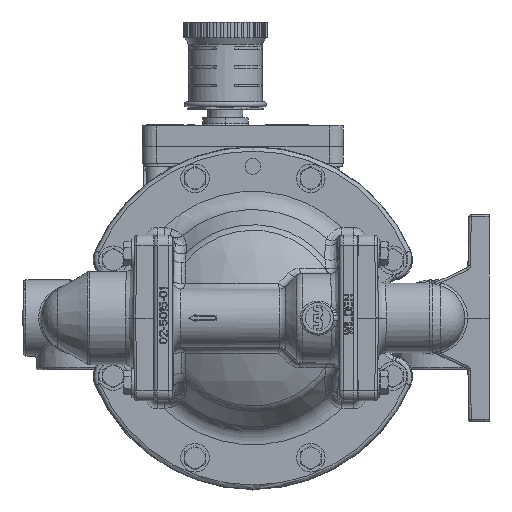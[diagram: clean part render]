
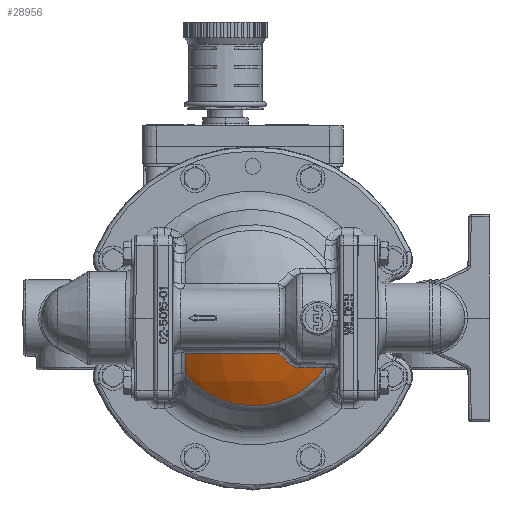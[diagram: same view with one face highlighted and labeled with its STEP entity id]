
A CAD part, left-side view. The second image highlights one B-rep face of the part: STEP entity #28956.
In plain terms, the highlighted spherical face has radius 87.376 mm.
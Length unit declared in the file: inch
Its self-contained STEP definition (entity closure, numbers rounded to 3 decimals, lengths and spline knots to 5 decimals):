
#1308 = CIRCLE ( 'NONE', #230731, 3.335 ) ;
#9130 = CARTESIAN_POINT ( 'NONE',  ( -1.198, 0., -0.84342 ) ) ;
#9702 = AXIS2_PLACEMENT_3D ( 'NONE', #234227, #44916, #62914 ) ;
#19353 = CARTESIAN_POINT ( 'NONE',  ( -4.2743, -0.99471, -1.175 ) ) ;
#20136 = AXIS2_PLACEMENT_3D ( 'NONE', #186400, #81340, #229217 ) ;
#20720 = CARTESIAN_POINT ( 'NONE',  ( -4.23263, -1.09127, -1.19744 ) ) ;
#27263 = EDGE_CURVE ( 'NONE', #250040, #219820, #50294, .T. ) ;
#28956 = ADVANCED_FACE ( 'NONE', ( #100718 ), #102080, .T. ) ;
#30567 = VERTEX_POINT ( 'NONE', #185521 ) ;
#31663 = VERTEX_POINT ( 'NONE', #63497 ) ;
#33353 = DIRECTION ( 'NONE',  ( -0.897, 0.008, -0.443 ) ) ;
#35759 = CARTESIAN_POINT ( 'NONE',  ( -3.90866, -1.74609, -1.19879 ) ) ;
#38246 = DIRECTION ( 'NONE',  ( 0., -0.707, 0.707 ) ) ;
#44161 = CARTESIAN_POINT ( 'NONE',  ( -4.31935, -0.90686, -1.12628 ) ) ;
#44490 = CARTESIAN_POINT ( 'NONE',  ( -4.22019, -1.12379, -1.19879 ) ) ;
#44916 = DIRECTION ( 'NONE',  ( -1., 0., 0. ) ) ;
#45516 = CARTESIAN_POINT ( 'NONE',  ( -4.26702, -1.01044, -1.18062 ) ) ;
#50294 = CIRCLE ( 'NONE', #156249, 3.22436 ) ;
#54319 = ORIENTED_EDGE ( 'NONE', *, *, #137878, .F. ) ;
#55637 = ORIENTED_EDGE ( 'NONE', *, *, #62434, .F. ) ;
#61836 = CARTESIAN_POINT ( 'NONE',  ( -4.1031, 1.63787, -0.84342 ) ) ;
#62164 = CARTESIAN_POINT ( 'NONE',  ( -4.3417, -0.86915, -1.09331 ) ) ;
#62434 = EDGE_CURVE ( 'NONE', #191239, #111760, #1308, .T. ) ;
#62914 = DIRECTION ( 'NONE',  ( 0., 0.773, -0.635 ) ) ;
#63497 = CARTESIAN_POINT ( 'NONE',  ( -4.3417, -0.86915, -1.09331 ) ) ;
#74427 = AXIS2_PLACEMENT_3D ( 'NONE', #123898, #38246, #184763 ) ;
#77503 = DIRECTION ( 'NONE',  ( -0.937, -0.349, 0. ) ) ;
#78768 = CIRCLE ( 'NONE', #74427, 3.43635 ) ;
#81340 = DIRECTION ( 'NONE',  ( 0., 0., 1. ) ) ;
#82907 = CARTESIAN_POINT ( 'NONE',  ( -4.25279, -1.04247, -1.18962 ) ) ;
#82973 = CARTESIAN_POINT ( 'NONE',  ( -1.198, 0., -1.19879 ) ) ;
#89388 = ORIENTED_EDGE ( 'NONE', *, *, #245740, .T. ) ;
#92642 = CARTESIAN_POINT ( 'NONE',  ( -4.47501, -0.61925, -0.84342 ) ) ;
#100718 = FACE_OUTER_BOUND ( 'NONE', #161264, .T. ) ;
#102080 = SPHERICAL_SURFACE ( 'NONE', #20136, 3.44 ) ;
#103624 = CARTESIAN_POINT ( 'NONE',  ( -4.29667, -0.94913, -1.15375 ) ) ;
#104992 = CARTESIAN_POINT ( 'NONE',  ( -4.32687, -0.89371, -1.11588 ) ) ;
#111760 = VERTEX_POINT ( 'NONE', #92642 ) ;
#120529 = CIRCLE ( 'NONE', #9702, 2.118 ) ;
#123898 = CARTESIAN_POINT ( 'NONE',  ( -1.198, 0.11208, -0.11208 ) ) ;
#124357 = CARTESIAN_POINT ( 'NONE',  ( -4.22219, -1.11839, -1.19879 ) ) ;
#127080 = CARTESIAN_POINT ( 'NONE',  ( -4.33925, -0.87307, -1.09723 ) ) ;
#129784 = CARTESIAN_POINT ( 'NONE',  ( -4.25984, -1.02638, -1.1855 ) ) ;
#137878 = EDGE_CURVE ( 'NONE', #111760, #31663, #78768, .T. ) ;
#148804 = B_SPLINE_CURVE_WITH_KNOTS ( 'NONE', 3,
 ( #233468, #124357, #252854, #20720, #193406, #234806, #82907, #129784, #45516, #19353, #167225, #214091, #103624, #251521, #168553, #44161, #104992, #169904, #127080, #62164 ),
 .UNSPECIFIED., .F., .F.,
 ( 4, 1, 1, 1, 1, 1, 1, 1, 1, 1, 1, 1, 1, 1, 1, 1, 1, 4 ),
 ( 0., 0.05882, 0.11765, 0.17647, 0.23529, 0.29412, 0.35294, 0.41176, 0.47059, 0.52941, 0.58824, 0.64706, 0.70588, 0.76471, 0.82353, 0.88235, 0.94118, 1. ),
 .UNSPECIFIED. ) ;
#156249 = AXIS2_PLACEMENT_3D ( 'NONE', #82973, #167290, #77503 ) ;
#161264 = EDGE_LOOP ( 'NONE', ( #210842, #267517, #89388, #54319, #55637, #271996 ) ) ;
#167225 = CARTESIAN_POINT ( 'NONE',  ( -4.28169, -0.97922, -1.16864 ) ) ;
#167290 = DIRECTION ( 'NONE',  ( 0., 0., 1. ) ) ;
#168553 = CARTESIAN_POINT ( 'NONE',  ( -4.31179, -0.92051, -1.13609 ) ) ;
#169904 = CARTESIAN_POINT ( 'NONE',  ( -4.33433, -0.8811, -1.1049 ) ) ;
#184763 = DIRECTION ( 'NONE',  ( -0.954, -0.213, -0.213 ) ) ;
#185521 = CARTESIAN_POINT ( 'NONE',  ( -3.90866, 1.63618, -1.34493 ) ) ;
#186400 = CARTESIAN_POINT ( 'NONE',  ( -1.198, 0., 0. ) ) ;
#186758 = EDGE_CURVE ( 'NONE', #30567, #191239, #231219, .T. ) ;
#191239 = VERTEX_POINT ( 'NONE', #61836 ) ;
#193406 = CARTESIAN_POINT ( 'NONE',  ( -4.23917, -1.07496, -1.19559 ) ) ;
#210842 = ORIENTED_EDGE ( 'NONE', *, *, #271324, .T. ) ;
#214091 = CARTESIAN_POINT ( 'NONE',  ( -4.28915, -0.96401, -1.16155 ) ) ;
#216440 = DIRECTION ( 'NONE',  ( 0., 0., 1. ) ) ;
#219820 = VERTEX_POINT ( 'NONE', #35759 ) ;
#222656 = CARTESIAN_POINT ( 'NONE',  ( -1.18393, 1.6124, 0. ) ) ;
#229217 = DIRECTION ( 'NONE',  ( 0., -1., 0. ) ) ;
#230731 = AXIS2_PLACEMENT_3D ( 'NONE', #9130, #216440, #259302 ) ;
#231219 = CIRCLE ( 'NONE', #240083, 3.03868 ) ;
#233468 = CARTESIAN_POINT ( 'NONE',  ( -4.22019, -1.12379, -1.19879 ) ) ;
#234227 = CARTESIAN_POINT ( 'NONE',  ( -3.90866, 0., 0. ) ) ;
#234806 = CARTESIAN_POINT ( 'NONE',  ( -4.2459, -1.05868, -1.19298 ) ) ;
#240083 = AXIS2_PLACEMENT_3D ( 'NONE', #222656, #265484, #33353 ) ;
#245740 = EDGE_CURVE ( 'NONE', #250040, #31663, #148804, .T. ) ;
#250040 = VERTEX_POINT ( 'NONE', #44490 ) ;
#251521 = CARTESIAN_POINT ( 'NONE',  ( -4.30422, -0.93462, -1.14525 ) ) ;
#252854 = CARTESIAN_POINT ( 'NONE',  ( -4.22628, -1.10757, -1.19855 ) ) ;
#259302 = DIRECTION ( 'NONE',  ( -0.871, 0.491, 0. ) ) ;
#265484 = DIRECTION ( 'NONE',  ( 0.009, 1., 0. ) ) ;
#267517 = ORIENTED_EDGE ( 'NONE', *, *, #27263, .F. ) ;
#271324 = EDGE_CURVE ( 'NONE', #30567, #219820, #120529, .T. ) ;
#271996 = ORIENTED_EDGE ( 'NONE', *, *, #186758, .F. ) ;
